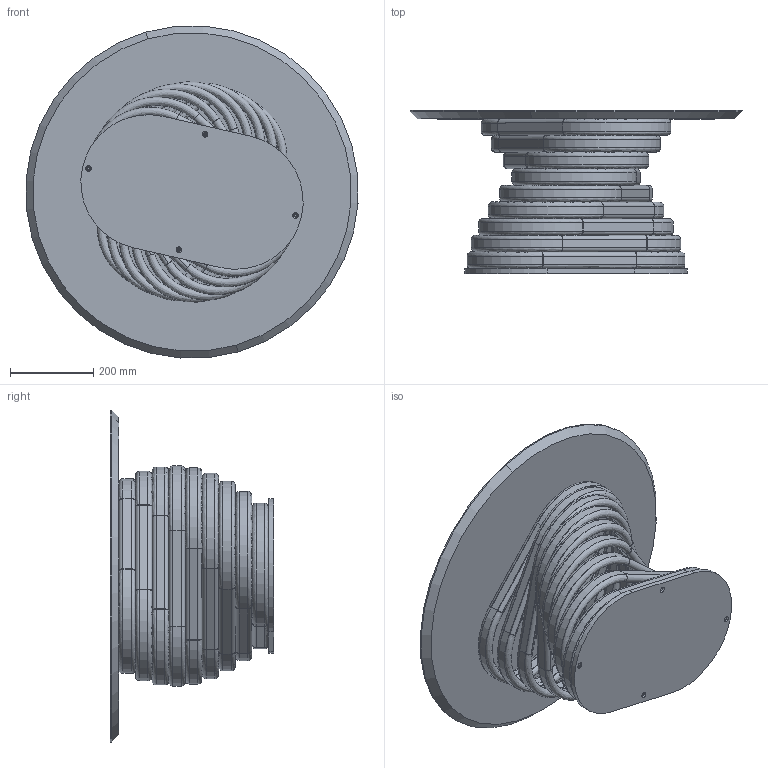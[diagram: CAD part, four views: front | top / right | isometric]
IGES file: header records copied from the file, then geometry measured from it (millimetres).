
Start section: SolidWorks IGES file using analytic representation for surfaces
Global section: file name: Y:\eforma\TECNICO\SOLIDWORKS\E-FORMA\2-TAVOLINI\ROTOLO LOW\02 parts\RL12W.IGS; native system: SolidWorks 2022; preprocessor: SolidWorks 2022; author: eforma.tech; date: 240806.143532; units: millimetre
Bounding box: 798.13 x 392 x 798.13 mm (x, y, z)
Volume: 13930738 mm3; surface area: 3738524.5 mm2
Topology: 40 solids, 40 shells, 460 faces, 1122 edges, 736 vertices
Faces by surface type: revolution 288, plane 170, bspline 2
